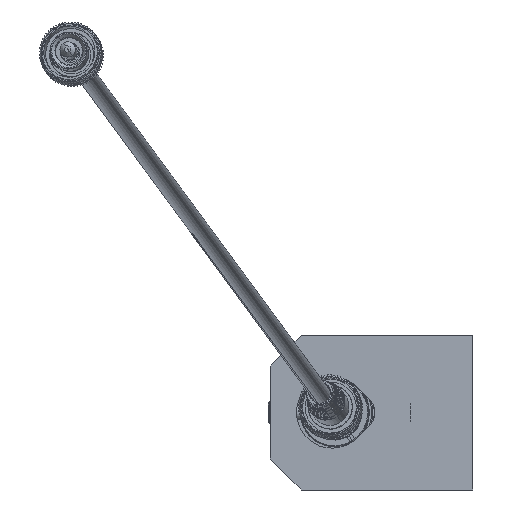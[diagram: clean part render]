
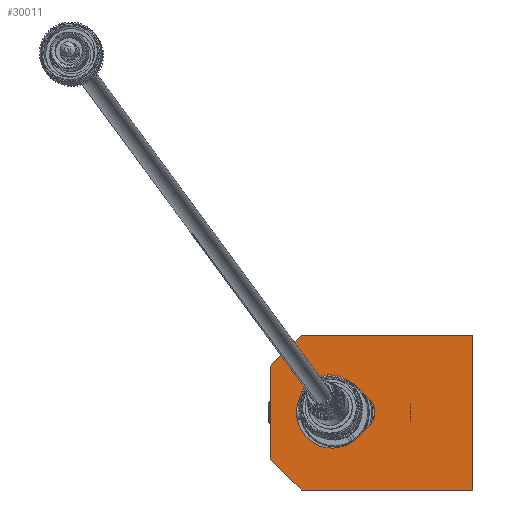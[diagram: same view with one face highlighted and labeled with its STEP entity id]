
A CAD part, left-side view. The second image highlights one B-rep face of the part: STEP entity #30011.
In plain terms, the highlighted planar face has unit normal (-1, 0, 0).
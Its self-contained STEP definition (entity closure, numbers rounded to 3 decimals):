
#3998 = EDGE_CURVE ( 'NONE', #74408, #53387, #35463, .T. ) ;
#4691 = EDGE_CURVE ( 'NONE', #5069, #51029, #55518, .T. ) ;
#5069 = VERTEX_POINT ( 'NONE', #46534 ) ;
#5326 = ORIENTED_EDGE ( 'NONE', *, *, #29960, .T. ) ;
#6023 = CARTESIAN_POINT ( 'NONE',  ( 0., 46.909, 28.439 ) ) ;
#7709 = VECTOR ( 'NONE', #31177, 1000. ) ;
#8741 = EDGE_CURVE ( 'NONE', #35849, #51029, #54089, .T. ) ;
#9150 = EDGE_CURVE ( 'NONE', #35849, #11530, #60728, .T. ) ;
#9284 = EDGE_LOOP ( 'NONE', ( #38881, #11444, #48405, #66333, #5326, #36942 ) ) ;
#11444 = ORIENTED_EDGE ( 'NONE', *, *, #74567, .T. ) ;
#11464 = VECTOR ( 'NONE', #62787, 1000. ) ;
#11530 = VERTEX_POINT ( 'NONE', #66562 ) ;
#13010 = PLANE ( 'NONE',  #68509 ) ;
#13110 = ORIENTED_EDGE ( 'NONE', *, *, #9150, .T. ) ;
#13376 = CARTESIAN_POINT ( 'NONE',  ( 0., 41.909, 46.689 ) ) ;
#14212 = ORIENTED_EDGE ( 'NONE', *, *, #55986, .F. ) ;
#16058 = CIRCLE ( 'NONE', #24606, 3. ) ;
#16086 = CIRCLE ( 'NONE', #58796, 5.75 ) ;
#17051 = AXIS2_PLACEMENT_3D ( 'NONE', #34794, #58080, #68354 ) ;
#17488 = DIRECTION ( 'NONE',  ( 0., -0.707, -0.707 ) ) ;
#17559 = CARTESIAN_POINT ( 'NONE',  ( 0., 41.909, 35.189 ) ) ;
#17705 = VECTOR ( 'NONE', #39413, 1000. ) ;
#18539 = CIRCLE ( 'NONE', #24664, 5.75 ) ;
#19338 = CARTESIAN_POINT ( 'NONE',  ( 0., 35.898, 38.818 ) ) ;
#20240 = DIRECTION ( 'NONE',  ( 0., 0.707, -0.707 ) ) ;
#20529 = CARTESIAN_POINT ( 'NONE',  ( 0., 51.909, 28.439 ) ) ;
#21786 = LINE ( 'NONE', #68371, #17705 ) ;
#22050 = VERTEX_POINT ( 'NONE', #19338 ) ;
#24606 = AXIS2_PLACEMENT_3D ( 'NONE', #74518, #45954, #69189 ) ;
#24664 = AXIS2_PLACEMENT_3D ( 'NONE', #59995, #35608, #58876 ) ;
#25115 = EDGE_CURVE ( 'NONE', #29829, #11530, #21786, .T. ) ;
#26817 = ORIENTED_EDGE ( 'NONE', *, *, #42719, .T. ) ;
#27224 = CARTESIAN_POINT ( 'NONE',  ( 0., 51.909, 33.439 ) ) ;
#27415 = LINE ( 'NONE', #20529, #55329 ) ;
#27708 = CARTESIAN_POINT ( 'NONE',  ( 0., 33.777, 40.939 ) ) ;
#29829 = VERTEX_POINT ( 'NONE', #61198 ) ;
#29872 = FACE_OUTER_BOUND ( 'NONE', #33530, .T. ) ;
#29960 = EDGE_CURVE ( 'NONE', #53387, #22050, #16058, .T. ) ;
#30011 = ADVANCED_FACE ( 'NONE', ( #29872, #35603 ), #13010, .F. ) ;
#30490 = CIRCLE ( 'NONE', #17051, 5.75 ) ;
#30608 = VECTOR ( 'NONE', #73003, 1000. ) ;
#31177 = DIRECTION ( 'NONE',  ( 0., -1., 0. ) ) ;
#31481 = DIRECTION ( 'NONE',  ( 0., 0., 1. ) ) ;
#33530 = EDGE_LOOP ( 'NONE', ( #43180, #26817, #14212, #35082, #58500, #13110 ) ) ;
#34794 = CARTESIAN_POINT ( 'NONE',  ( 0., 41.909, 40.939 ) ) ;
#35082 = ORIENTED_EDGE ( 'NONE', *, *, #4691, .T. ) ;
#35463 = LINE ( 'NONE', #58726, #50762 ) ;
#35603 = FACE_BOUND ( 'NONE', #9284, .T. ) ;
#35608 = DIRECTION ( 'NONE',  ( 1., 0., 0. ) ) ;
#35849 = VERTEX_POINT ( 'NONE', #50573 ) ;
#36942 = ORIENTED_EDGE ( 'NONE', *, *, #58998, .T. ) ;
#37497 = DIRECTION ( 'NONE',  ( 1., 0., 0. ) ) ;
#38507 = DIRECTION ( 'NONE',  ( 0., 1., 0. ) ) ;
#38881 = ORIENTED_EDGE ( 'NONE', *, *, #54841, .T. ) ;
#39413 = DIRECTION ( 'NONE',  ( 0., 0., 1. ) ) ;
#39763 = VECTOR ( 'NONE', #31481, 1000. ) ;
#42719 = EDGE_CURVE ( 'NONE', #29829, #46591, #73385, .T. ) ;
#43180 = ORIENTED_EDGE ( 'NONE', *, *, #25115, .F. ) ;
#43744 = CARTESIAN_POINT ( 'NONE',  ( 0., 37.843, 45.005 ) ) ;
#44371 = DIRECTION ( 'NONE',  ( 0., 0., 1. ) ) ;
#45954 = DIRECTION ( 'NONE',  ( 1., 0., 0. ) ) ;
#46534 = CARTESIAN_POINT ( 'NONE',  ( 0., 19.249, 28.439 ) ) ;
#46591 = VERTEX_POINT ( 'NONE', #6023 ) ;
#47439 = DIRECTION ( 'NONE',  ( 1., 0., 0. ) ) ;
#47805 = CARTESIAN_POINT ( 'NONE',  ( 0., 19.249, 53.439 ) ) ;
#47983 = CARTESIAN_POINT ( 'NONE',  ( 0., 51.909, 53.439 ) ) ;
#48405 = ORIENTED_EDGE ( 'NONE', *, *, #71623, .T. ) ;
#49027 = VERTEX_POINT ( 'NONE', #50883 ) ;
#49274 = VERTEX_POINT ( 'NONE', #13376 ) ;
#50573 = CARTESIAN_POINT ( 'NONE',  ( 0., 46.909, 53.439 ) ) ;
#50616 = CARTESIAN_POINT ( 'NONE',  ( 0., 35.898, 43.061 ) ) ;
#50762 = VECTOR ( 'NONE', #17488, 1000. ) ;
#50839 = CARTESIAN_POINT ( 'NONE',  ( 0., 41.909, 40.939 ) ) ;
#50883 = CARTESIAN_POINT ( 'NONE',  ( 0., 37.843, 36.874 ) ) ;
#51029 = VERTEX_POINT ( 'NONE', #47805 ) ;
#51710 = VECTOR ( 'NONE', #20240, 1000. ) ;
#53387 = VERTEX_POINT ( 'NONE', #50616 ) ;
#54089 = LINE ( 'NONE', #47983, #7709 ) ;
#54841 = EDGE_CURVE ( 'NONE', #49027, #55902, #18539, .T. ) ;
#55329 = VECTOR ( 'NONE', #38507, 1000. ) ;
#55518 = LINE ( 'NONE', #56258, #39763 ) ;
#55902 = VERTEX_POINT ( 'NONE', #17559 ) ;
#55986 = EDGE_CURVE ( 'NONE', #5069, #46591, #27415, .T. ) ;
#56258 = CARTESIAN_POINT ( 'NONE',  ( 0., 19.249, 28.439 ) ) ;
#58080 = DIRECTION ( 'NONE',  ( 1., 0., 0. ) ) ;
#58497 = CARTESIAN_POINT ( 'NONE',  ( 0., 0., 0. ) ) ;
#58500 = ORIENTED_EDGE ( 'NONE', *, *, #8741, .F. ) ;
#58726 = CARTESIAN_POINT ( 'NONE',  ( 0., 37.843, 45.005 ) ) ;
#58796 = AXIS2_PLACEMENT_3D ( 'NONE', #50839, #37497, #44371 ) ;
#58876 = DIRECTION ( 'NONE',  ( 0., 0., 1. ) ) ;
#58998 = EDGE_CURVE ( 'NONE', #22050, #49027, #68127, .T. ) ;
#59995 = CARTESIAN_POINT ( 'NONE',  ( 0., 41.909, 40.939 ) ) ;
#60728 = LINE ( 'NONE', #72552, #51710 ) ;
#61198 = CARTESIAN_POINT ( 'NONE',  ( 0., 51.909, 33.439 ) ) ;
#62787 = DIRECTION ( 'NONE',  ( 0., 0.707, -0.707 ) ) ;
#66333 = ORIENTED_EDGE ( 'NONE', *, *, #3998, .T. ) ;
#66562 = CARTESIAN_POINT ( 'NONE',  ( 0., 51.909, 48.439 ) ) ;
#68127 = LINE ( 'NONE', #27708, #11464 ) ;
#68354 = DIRECTION ( 'NONE',  ( 0., 0., 1. ) ) ;
#68371 = CARTESIAN_POINT ( 'NONE',  ( 0., 51.909, 53.439 ) ) ;
#68509 = AXIS2_PLACEMENT_3D ( 'NONE', #58497, #47439, #70691 ) ;
#69189 = DIRECTION ( 'NONE',  ( 0., 0., -1. ) ) ;
#70691 = DIRECTION ( 'NONE',  ( 0., 0., -1. ) ) ;
#71623 = EDGE_CURVE ( 'NONE', #49274, #74408, #30490, .T. ) ;
#72552 = CARTESIAN_POINT ( 'NONE',  ( 0., 46.909, 53.439 ) ) ;
#73003 = DIRECTION ( 'NONE',  ( 0., -0.707, -0.707 ) ) ;
#73385 = LINE ( 'NONE', #27224, #30608 ) ;
#74408 = VERTEX_POINT ( 'NONE', #43744 ) ;
#74518 = CARTESIAN_POINT ( 'NONE',  ( 0., 38.019, 40.939 ) ) ;
#74567 = EDGE_CURVE ( 'NONE', #55902, #49274, #16086, .T. ) ;
